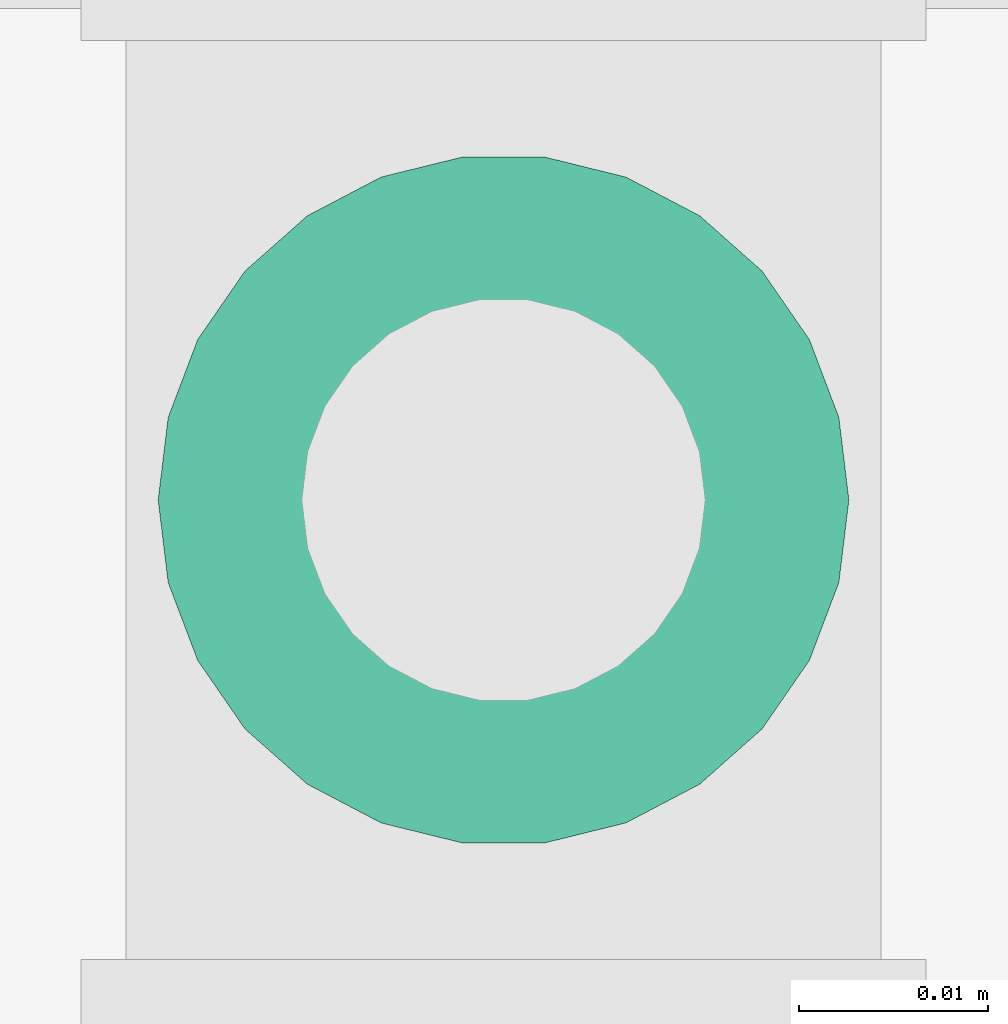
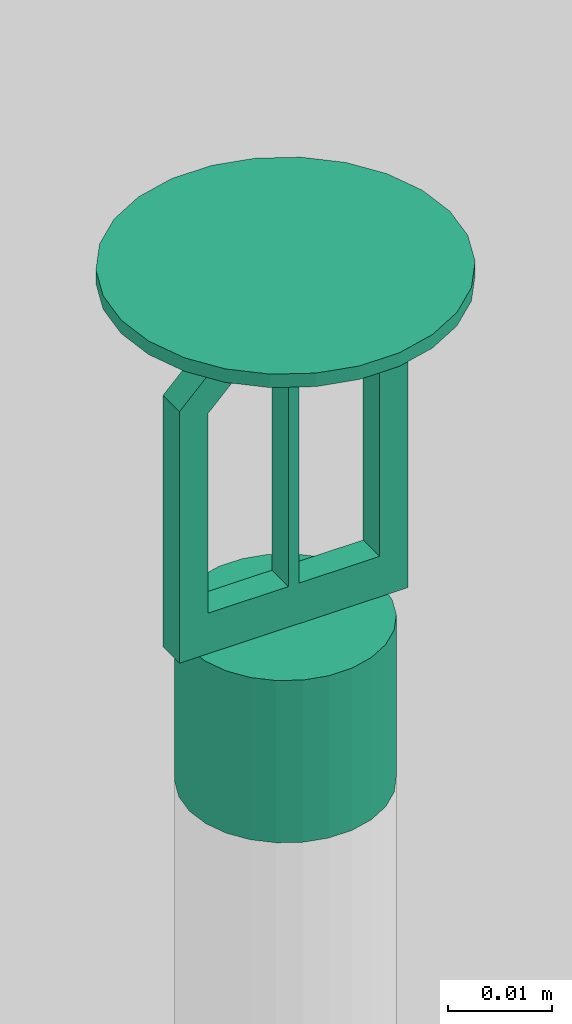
# One storey, part 101 of 108: 1 fire suppression terminal.
"""IFC4 building model written with IfcOpenShell, lengths in feet."""

from ifc_helpers import new_model, entity, si_unit, converted_unit, derived_unit, direction, frame, frame_2d, origin, place, context, subcontext, project, spatial, polyline, circle, outline, extrude, source, transform, mapped, material, type_object, type_shapes, element, save


model = new_model("IFC4")

# Units and contexts
model_context = context("Model", 3, precision=0.0001, world=origin(), true_north=direction((6.12303176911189e-17, 1.0)))
body_context = subcontext(model_context, "Body", "Model", "MODEL_VIEW")
ifc_project = project(units=[converted_unit("LENGTHUNIT", "FOOT", entity("IfcRatioMeasure", 0.3048), si_unit("LENGTHUNIT", "METRE"), dimensions=[1, 0, 0, 0, 0, 0, 0]), converted_unit("AREAUNIT", "SQUARE FOOT", entity("IfcRatioMeasure", 0.09290304), si_unit("AREAUNIT", "SQUARE_METRE"), dimensions=[2, 0, 0, 0, 0, 0, 0]), converted_unit("VOLUMEUNIT", "CUBIC FOOT", entity("IfcRatioMeasure", 0.028316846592), si_unit("VOLUMEUNIT", "CUBIC_METRE"), dimensions=[3, 0, 0, 0, 0, 0, 0]), converted_unit("PLANEANGLEUNIT", "DEGREE", entity("IfcRatioMeasure", 0.0174532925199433), si_unit("PLANEANGLEUNIT", "RADIAN"), dimensions=[0, 0, 0, 0, 0, 0, 0]), si_unit("MASSUNIT", "GRAM", prefix="KILO"), derived_unit("MASSDENSITYUNIT", [(si_unit("MASSUNIT", "GRAM", prefix="KILO"), 1), (si_unit("LENGTHUNIT", "METRE"), -3)]), si_unit("TIMEUNIT", "SECOND"), si_unit("FREQUENCYUNIT", "HERTZ"), si_unit("THERMODYNAMICTEMPERATUREUNIT", "DEGREE_CELSIUS"), derived_unit("THERMALTRANSMITTANCEUNIT", [(si_unit("MASSUNIT", "GRAM", prefix="KILO"), 1), (si_unit("THERMODYNAMICTEMPERATUREUNIT", "KELVIN"), -1), (si_unit("TIMEUNIT", "SECOND"), -3)]), derived_unit("VOLUMETRICFLOWRATEUNIT", [(si_unit("LENGTHUNIT", "METRE"), 3), (si_unit("TIMEUNIT", "SECOND"), -1)]), si_unit("ELECTRICCURRENTUNIT", "AMPERE"), si_unit("ELECTRICVOLTAGEUNIT", "VOLT"), si_unit("POWERUNIT", "WATT"), si_unit("FORCEUNIT", "NEWTON"), si_unit("ILLUMINANCEUNIT", "LUX"), si_unit("LUMINOUSFLUXUNIT", "LUMEN"), si_unit("LUMINOUSINTENSITYUNIT", "CANDELA"), derived_unit("USERDEFINED", [(si_unit("MASSUNIT", "GRAM", prefix="KILO"), -1), (si_unit("LENGTHUNIT", "METRE"), -2), (si_unit("TIMEUNIT", "SECOND"), 3), (si_unit("LUMINOUSFLUXUNIT", "LUMEN"), 1)]), derived_unit("LINEARVELOCITYUNIT", [(si_unit("LENGTHUNIT", "METRE"), 1), (si_unit("TIMEUNIT", "SECOND"), -1)]), si_unit("PRESSUREUNIT", "PASCAL"), derived_unit("USERDEFINED", [(si_unit("LENGTHUNIT", "METRE"), -2), (si_unit("MASSUNIT", "GRAM", prefix="KILO"), 1), (si_unit("TIMEUNIT", "SECOND"), -2)])], contexts=[model_context])

# Site, building, storey
site_placement = place(None, origin())
site = spatial("IfcSite", under=ifc_project, at=site_placement, Name="Default", CompositionType="ELEMENT")
building_placement = place(site_placement, origin())
building = spatial("IfcBuilding", under=site, at=building_placement, CompositionType="ELEMENT")
storey_placement = place(building_placement, frame((0.0, 0.0, 168.0)))
storey = spatial("IfcBuildingStorey", under=building, at=storey_placement, Name="Level 15", CompositionType="ELEMENT", Elevation=168.0)

# Fire suppression terminal
ifc_material = material(Name="Default", Category="Miscellaneous")
fire_suppression_terminal_type = type_object("IfcFireSuppressionTerminalType", Name="Standard", PredefinedType="NOTDEFINED", material=ifc_material)
shared_shape = source(origin(), body_context, "Body", "SweptSolid", [
    extrude(outline(polyline([(-0.0416666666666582, -0.0872160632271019), (0.0416666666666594, -0.0872160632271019), (0.0416666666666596, 0.00964585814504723), (0.0167345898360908, 0.0345779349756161), (0.0167345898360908, 0.0429922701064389), (-0.0167345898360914, 0.0429922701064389), (-0.0167345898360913, 0.0345779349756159), (-0.0416666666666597, 0.00964585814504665), (-0.0416666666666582, -0.0872160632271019)]), holes=[polyline([(0.00195312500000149, -0.0715910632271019), (0.00195312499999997, 0.0261635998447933), (0.0104175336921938, 0.0261635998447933), (0.0312499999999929, 0.00533113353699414), (0.0312499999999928, -0.0715910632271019), (0.00195312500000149, -0.0715910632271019)]), polyline([(-0.0019531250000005, -0.0715910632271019), (-0.0312499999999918, -0.0715910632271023), (-0.031249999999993, 0.00533113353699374), (-0.0104175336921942, 0.0261635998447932), (-0.00195312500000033, 0.0261635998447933), (-0.0019531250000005, -0.0715910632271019)])]), frame((0.0, -0.00520833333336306, 0.14971606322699), z_axis=(0.0, 1.0, 0.0), x_axis=(-1.0, 0.0, 0.0)), (0.0, 0.0, 1.0), 0.0104166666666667),
    extrude(circle(Radius=0.035, at=frame_2d((-2.76586283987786e-18, -4.44862351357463e-17), x_axis=(1.0, 0.0))), frame((0.0, 0.0, 0.0), z_axis=(0.0, 0.0, 1.0), x_axis=(-1.0, 0.0, 0.0)), (0.0, 0.0, 1.0), 0.0624999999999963),
    extrude(circle(Radius=0.0598958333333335, at=frame_2d((5.01992838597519e-20, -7.61297178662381e-17), x_axis=(1.0, 0.0))), frame((0.0, 0.0, 0.192708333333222), z_axis=(0.0, 0.0, 1.0), x_axis=(-1.0, 0.0, 0.0)), (0.0, 0.0, 1.0), 0.00520833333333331),
])
type_shapes(fire_suppression_terminal_type, [shared_shape])
fire_suppression_terminal_placement = place(storey_placement, frame((-25.7607221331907, 10.2475862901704, 10.375)))
element("IfcFireSuppressionTerminal", 1, at=fire_suppression_terminal_placement, inside=storey, type_object=fire_suppression_terminal_type, material=ifc_material, Name="Upright:Standard", ObjectType="Upright:Standard", PredefinedType="NOTDEFINED", context=body_context, shape_type="MappedRepresentation", body=[
    mapped(shared_shape, transform((0.0, 0.0, 0.0), scale=1.0)),
])

save(model, "model.ifc")
